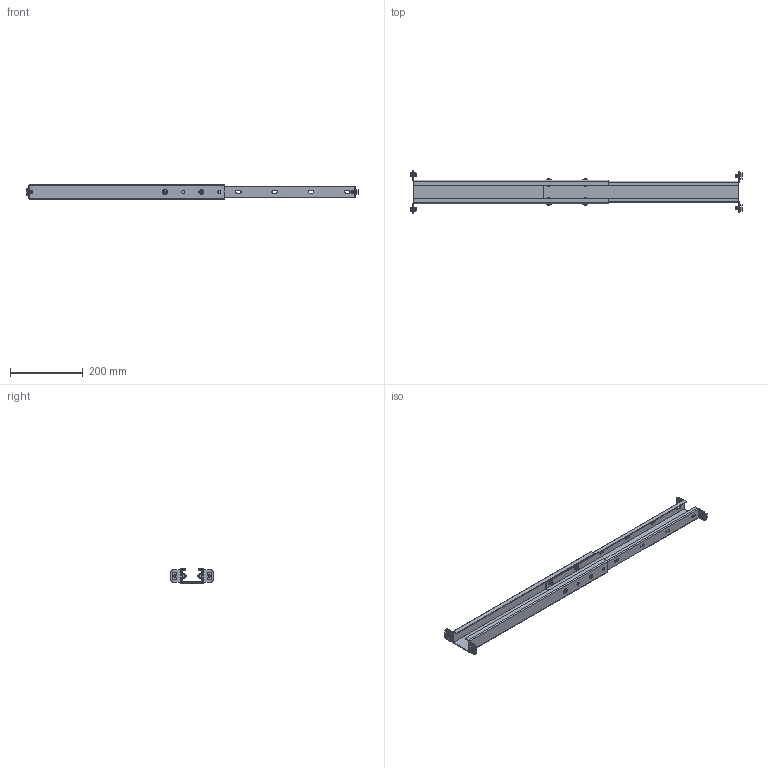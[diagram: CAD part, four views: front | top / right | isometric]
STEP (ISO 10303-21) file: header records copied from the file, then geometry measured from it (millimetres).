
FILE_DESCRIPTION(/* description */ ('Unknown','CAx-IF Rec.Pracs.---Representation and Presentation of Product Manufacturing Information (PMI)---4.0---2014-10-13','CAx-IF Rec.Pracs.---3D Tessellated Geometry---0.4---2014-09-14','2;1'),/* implementation_level */ '2;1');
FILE_NAME(/* name */ '127.00636_00-900mm',/* time_stamp */ '2024-09-30T15:08:36+02:00',/* author */ ('Unknown'),/* organization */ ('Unknown'),/* preprocessor_version */ 'ST-DEVELOPER v18.104',/* originating_system */ 'Solid Edge',/* authorisation */ 'Unknown');
FILE_SCHEMA (('AP242_MANAGED_MODEL_BASED_3D_ENGINEERING_MIM_LF { 1 0 10303 442 1 1 4 }'));
Length unit declared in the file: millimetre
Products named in the file (9): 127.00636; 096599~1; 096600~1; Sechskantmutter M6 DIN 934; Scheibe Ø6,4 DIN 125; 142.00081; 142.00018; 126.00495; Halbrundkopfschraube mit Innensechskant und Bund M6x16 ISO 7380-2
Assembly tree (26 placements, depth 2):
  127.00636
    096599~1
    096600~1
    Sechskantmutter M6 DIN 934  x4
    Scheibe Ø6,4 DIN 125  x4
    142.00081  x4
    142.00018  x4
    126.00495  x4
    Halbrundkopfschraube mit Innensechskant und Bund M6x16 ISO 7380-2  x4
Bounding box: 913.8 x 120 x 40 mm (x, y, z)
Volume: 416533 mm3; surface area: 345266.4 mm2
Topology: 26 solids, 26 shells, 544 faces, 1354 edges, 882 vertices
Faces by surface type: plane 256, cylinder 180, torus 72, bspline 24, cone 8, sphere 4
Full cylindrical faces by diameter (mm): 4.917 x4, 6 x12, 6.4 x8, 8.5 x12, 10 x4, 11 x4, 12 x4, 13.6 x4
Entity records: 8517 total; most frequent: CARTESIAN_POINT 1948, DIRECTION 1268, ORIENTED_EDGE 1224, EDGE_CURVE 612, AXIS2_PLACEMENT_3D 451, VERTEX_POINT 420, LINE 366, VECTOR 366
